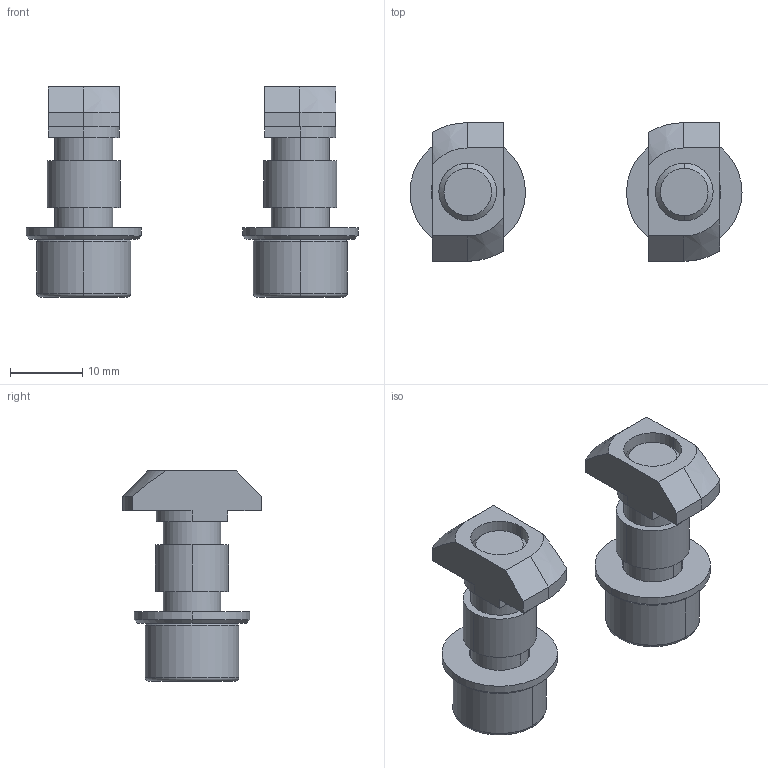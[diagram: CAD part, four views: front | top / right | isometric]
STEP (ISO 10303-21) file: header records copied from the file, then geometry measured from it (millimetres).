
FILE_DESCRIPTION (( 'STEP AP203' ), '1' );
FILE_NAME ('75000019.STEP', '2016-11-21T08:28:22', ( '' ), ( '' ), 'SwSTEP 2.0', 'SolidWorks 2015', '' );
FILE_SCHEMA (( 'CONFIG_CONTROL_DESIGN' ));
Length unit declared in the file: millimetre
Products named in the file (1): 75000019
Bounding box: 46 x 19.2 x 29.1 mm (x, y, z)
Volume: 6028.5 mm3; surface area: 5175.5 mm2
Topology: 2 solids, 2 shells, 116 faces, 270 edges, 172 vertices
Faces by surface type: plane 52, cylinder 44, cone 16, torus 4
Entity records: 3869 total; most frequent: CARTESIAN_POINT 1079, DIRECTION 580, ORIENTED_EDGE 540, EDGE_CURVE 270, AXIS2_PLACEMENT_3D 213, VERTEX_POINT 172, LINE 154, VECTOR 154
